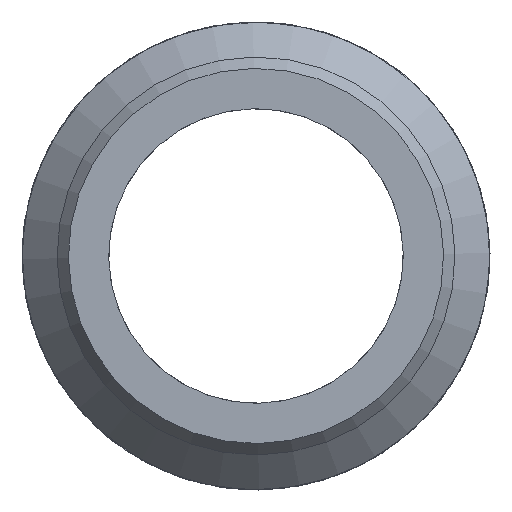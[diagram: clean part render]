
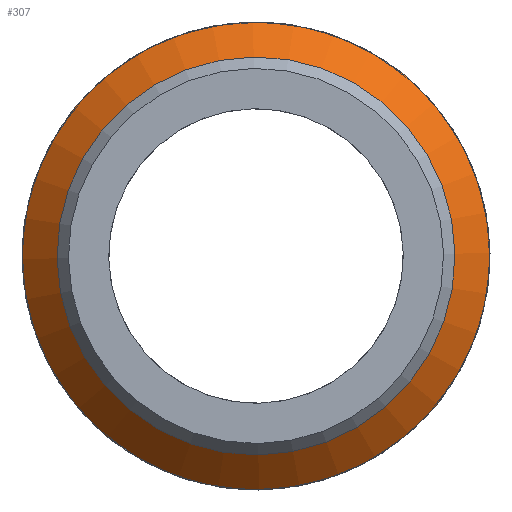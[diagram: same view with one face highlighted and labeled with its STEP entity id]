
A CAD part, front view. The second image highlights one B-rep face of the part: STEP entity #307.
In plain terms, the highlighted conical face has half-angle 45 degrees and reference radius 11.608 mm.
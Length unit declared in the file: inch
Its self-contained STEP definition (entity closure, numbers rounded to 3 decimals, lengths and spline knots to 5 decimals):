
#38=FACE_BOUND('',#87,.T.);
#62=FACE_OUTER_BOUND('',#86,.T.);
#86=EDGE_LOOP('',(#218));
#87=EDGE_LOOP('',(#219));
#134=CIRCLE('',#338,0.42);
#135=CIRCLE('',#339,0.494);
#162=VERTEX_POINT('',#497);
#163=VERTEX_POINT('',#499);
#190=EDGE_CURVE('',#162,#162,#134,.T.);
#191=EDGE_CURVE('',#163,#163,#135,.T.);
#218=ORIENTED_EDGE('',*,*,#190,.F.);
#219=ORIENTED_EDGE('',*,*,#191,.F.);
#274=CONICAL_SURFACE('',#337,0.457,45.);
#307=ADVANCED_FACE('',(#62,#38),#274,.T.);
#337=AXIS2_PLACEMENT_3D('',#496,#391,#392);
#338=AXIS2_PLACEMENT_3D('',#498,#393,#394);
#339=AXIS2_PLACEMENT_3D('',#500,#395,#396);
#391=DIRECTION('center_axis',(0.,1.,0.));
#392=DIRECTION('ref_axis',(-0.186,0.,0.983));
#393=DIRECTION('center_axis',(0.,-1.,0.));
#394=DIRECTION('ref_axis',(0.186,0.,-0.983));
#395=DIRECTION('center_axis',(0.,1.,0.));
#396=DIRECTION('ref_axis',(0.983,0.,0.186));
#496=CARTESIAN_POINT('Origin',(0.,0.5255,0.));
#497=CARTESIAN_POINT('',(-0.07791,0.4885,0.41271));
#498=CARTESIAN_POINT('Origin',(0.,0.4885,0.));
#499=CARTESIAN_POINT('',(-0.09164,0.5625,0.48543));
#500=CARTESIAN_POINT('Origin',(0.,0.5625,0.));
